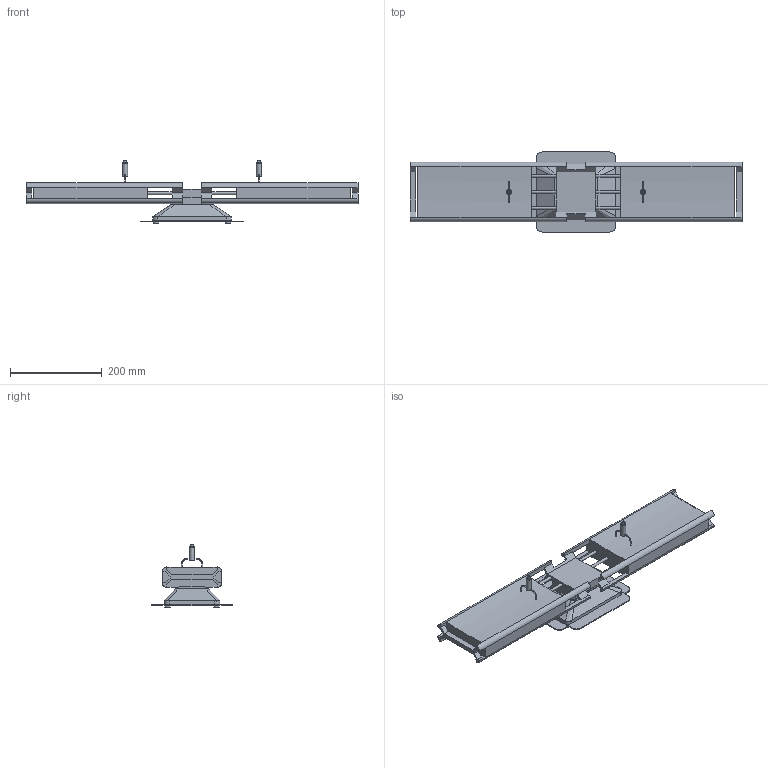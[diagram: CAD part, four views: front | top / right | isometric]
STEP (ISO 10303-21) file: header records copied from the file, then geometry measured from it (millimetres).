
FILE_DESCRIPTION(/* description */ (''),/* implementation_level */ '2;1');
FILE_NAME(/* name */ 'DL01_DL02_DL04_DL05_A.stp',/* time_stamp */ '2017-03-21T17:55:58+00:00',/* author */ (''),/* organization */ (''),/* preprocessor_version */ 'ST-DEVELOPER v15',/* originating_system */ 'SIEMENS PLM Software NX 8.5',/* authorisation */ '');
FILE_SCHEMA (('AP203_CONFIGURATION_CONTROLLED_3D_DESIGN_OF_MECHANICAL_PARTS_AND_ASSEMBLIES_MIM_LF { 1 0 10303 403 2 1 2}'));
Length unit declared in the file: millimetre
Products named in the file (1): wdar09745CC16bey
Bounding box: 725 x 175 x 139.2 mm (x, y, z)
Volume: 3135879.4 mm3; surface area: 362899.4 mm2
Topology: 1 solids, 1 shells, 262 faces, 773 edges, 493 vertices
Faces by surface type: plane 170, cylinder 66, cone 10, bspline 8, torus 4, sphere 4
Full cylindrical faces by diameter (mm): 2 x8, 5.8 x2, 6 x6, 11 x2, 12 x4
Entity records: 9248 total; most frequent: CARTESIAN_POINT 2407, ORIENTED_EDGE 1436, DIRECTION 1322, EDGE_CURVE 718, LINE 520, VECTOR 520, VERTEX_POINT 478, AXIS2_PLACEMENT_3D 401
